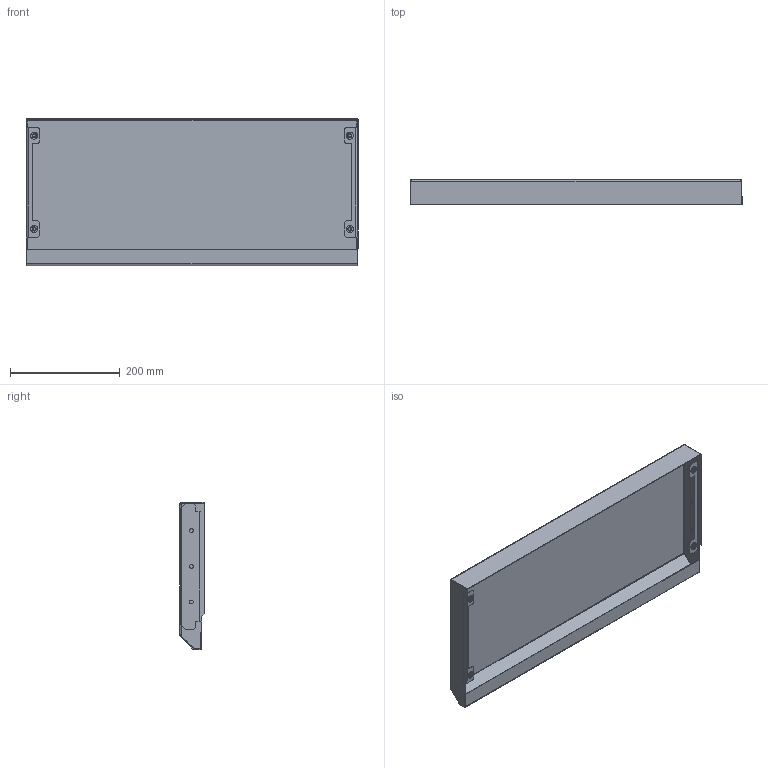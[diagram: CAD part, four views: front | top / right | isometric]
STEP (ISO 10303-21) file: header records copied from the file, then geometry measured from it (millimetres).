
FILE_DESCRIPTION (( 'STEP AP214' ), '1' );
FILE_NAME ('RKC 60.25 ﾊ鰀靍裲 鈞隆.STEP', '2023-07-29T07:50:38', ( '' ), ( '' ), 'SwSTEP 2.0', 'SolidWorks 2019', '' );
FILE_SCHEMA (( 'AUTOMOTIVE_DESIGN' ));
Length unit declared in the file: millimetre
Products named in the file (4): RKC Z 01.002 扰鍙欙樥燲RKC 25; Ãàéêà-çàêë¸ïêà Ì6; RKC 60.25 ﾊ鰀靍裲 鈞隆; RKC Y.Z 01.001 扻踑謥獥RKC 60.25
Assembly tree (7 placements, depth 2):
  RKC 60.25 ﾊ鰀靍裲 鈞隆
    RKC Y.Z 01.001 扻踑謥獥RKC 60.25
    RKC Z 01.002 扰鍙欙樥燲RKC 25  x2
    Ãàéêà-çàêë¸ïêà Ì6  x4
Bounding box: 605 x 45 x 268 mm (x, y, z)
Volume: 367085.4 mm3; surface area: 529751.7 mm2
Topology: 7 solids, 7 shells, 418 faces, 1040 edges, 652 vertices
Faces by surface type: cylinder 214, plane 134, torus 40, bspline 30
Entity records: 8193 total; most frequent: CARTESIAN_POINT 2971, ORIENTED_EDGE 1100, DIRECTION 1014, EDGE_CURVE 550, AXIS2_PLACEMENT_3D 370, VERTEX_POINT 343, VECTOR 274, LINE 274
